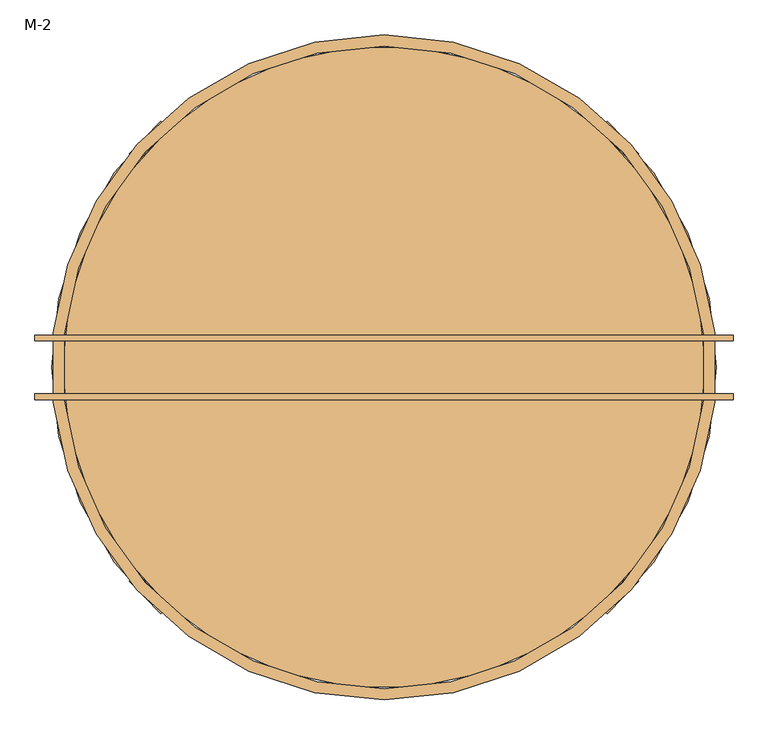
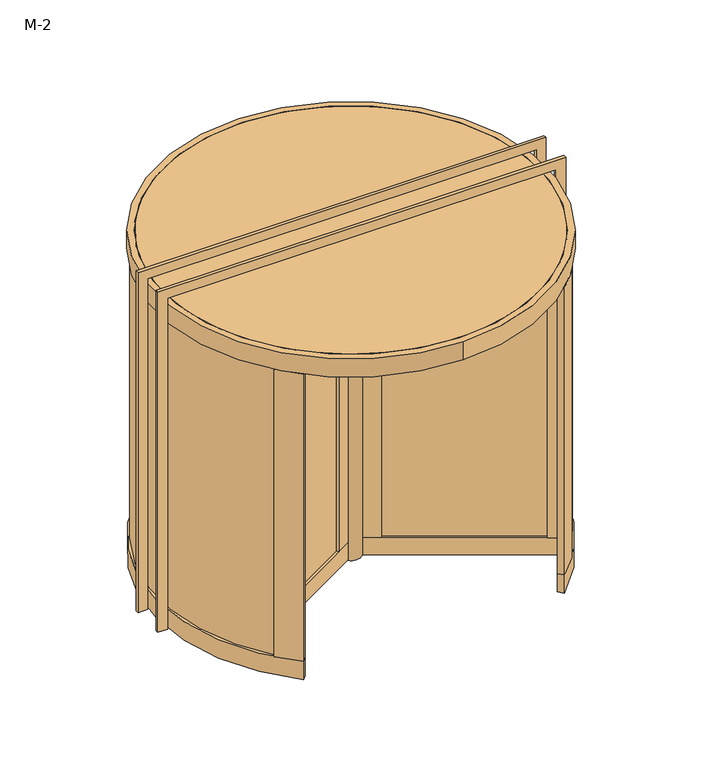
"""IFC4 building model written with IfcOpenShell, lengths in millimetres: door geometry, 旋转门 3 : M-2."""

from ifc_helpers import new_model, si_unit, point, frame, frame_2d, origin, origin_with_axes, origin_2d, place, context, project, spatial, polyline, circle_curve, trimmed, segment, composite_curve, outline, extrude, source, transform, mapped, element, save


def m_2_975caadc(model_context):
    return source(origin(), model_context, "Body", "SweptSolid", [
        extrude(outline(polyline([(2700.0, -1500.0), (2700.0, 1500.0), (0.0, 1500.0), (0.0, 1575.0), (2775.0, 1575.0), (2775.0, -1575.0), (0.0, -1575.0), (0.0, -1500.0), (2700.0, -1500.0)])), frame((0.0, -145.0, 0.0), z_axis=(0.0, 1.0, 0.0), x_axis=(0.0, 0.0, 1.0)), (0.0, 0.0, 1.0), 25.0),
        extrude(outline(polyline([(2700.0, -1500.0), (2700.0, 1500.0), (0.0, 1500.0), (0.0, 1575.0), (2775.0, 1575.0), (2775.0, -1575.0), (0.0, -1575.0), (0.0, -1500.0), (2700.0, -1500.0)])), frame((0.0, 120.0, 0.0), z_axis=(0.0, 1.0, 0.0), x_axis=(0.0, 0.0, 1.0)), (0.0, 0.0, 1.0), 25.0),
        extrude(outline(composite_curve([segment(trimmed(circle_curve(origin_2d(), 1500.0000021), [point((0.0, -1500.0000021))], [point((0.0, 1500.0000021))], False, "CARTESIAN"), True, "CONTINUOUS"), segment(trimmed(circle_curve(origin_2d(), 1500.0000021), [point((0.0, 1500.0000021))], [point((0.0, -1500.0000021))], False, "CARTESIAN"), True, "CONTINUOUS")], self_intersect=False), holes=[composite_curve([segment(trimmed(circle_curve(origin_2d(), 1449.2000021), [point((0.0, 1449.2000021))], [point((0.0, -1449.2000021))], True, "CARTESIAN"), True, "CONTINUOUS"), segment(trimmed(circle_curve(origin_2d(), 1449.2000021), [point((0.0, -1449.2000021))], [point((0.0, 1449.2000021))], True, "CARTESIAN"), True, "CONTINUOUS")], self_intersect=False)]), frame((0.0, 0.0, 2493.2), z_axis=(0.0, 0.0, 1.0), x_axis=(1.0, 0.0, 0.0)), (0.0, 0.0, 1.0), 150.0),
        extrude(outline(polyline([(174.0798334, -107.8673079), (180.4298334, -96.8687853), (1141.6390397, -651.8231794), (1135.2890397, -662.821702), (174.0798334, -107.8673079)])), frame((0.0, 0.0, 150.0), z_axis=(0.0, 0.0, 1.0), x_axis=(1.0, 0.0, 0.0)), (0.0, 0.0, 1.0), 2343.2),
        extrude(outline(polyline([(-6.3759122, 204.691212), (-6.3759122, 1314.6), (6.3240878, 1314.6), (6.3240878, 204.691212), (-6.3759122, 204.691212)])), frame((0.0, 0.0, 150.0), z_axis=(0.0, 0.0, 1.0), x_axis=(1.0, 0.0, 0.0)), (0.0, 0.0, 1.0), 2343.2),
        extrude(outline(polyline([(-174.0798334, -107.8673079), (-1135.2890397, -662.821702), (-1141.6390397, -651.8231793), (-180.4298334, -96.8687853), (-174.0798334, -107.8673079)])), frame((0.0, 0.0, 150.0), z_axis=(0.0, 0.0, 1.0), x_axis=(1.0, 0.0, 0.0)), (0.0, 0.0, 1.0), 2343.2),
        extrude(outline(polyline([(1125.9769958, -678.9506351), (1150.9769958, -635.6493649), (1254.9000443, -695.6493649), (1229.9000443, -738.9506351), (1125.9769958, -678.9506351)])), frame((0.0, 0.0, 150.0), z_axis=(0.0, 0.0, 1.0), x_axis=(1.0, 0.0, 0.0)), (0.0, 0.0, 1.0), 2343.2),
        extrude(outline(polyline([(58.7955281, -62.2855931), (83.7543721, -19.0556072), (189.9563281, -80.3713351), (164.9974841, -123.601321), (58.7955281, -62.2855931)])), frame((0.0, 0.0, 150.0), z_axis=(0.0, 0.0, 1.0), x_axis=(1.0, 0.0, 0.0)), (0.0, 0.0, 1.0), 2343.2),
        extrude(outline(polyline([(25.0, 1314.6), (-25.0, 1314.6), (-25.0, 1434.6), (25.0, 1434.6), (25.0, 1314.6)])), frame((0.0, 0.0, 150.0), z_axis=(0.0, 0.0, 1.0), x_axis=(1.0, 0.0, 0.0)), (0.0, 0.0, 1.0), 2343.2),
        extrude(outline(polyline([(24.5431418, 82.0612175), (-25.3745461, 82.0612175), (-25.3745461, 204.6926733), (24.5431418, 204.6926733), (24.5431418, 82.0612175)])), frame((0.0, 0.0, 150.0), z_axis=(0.0, 0.0, 1.0), x_axis=(1.0, 0.0, 0.0)), (0.0, 0.0, 1.0), 2343.2),
        extrude(outline(polyline([(-1125.9769958, -678.9506351), (-1229.9000443, -738.9506351), (-1254.9000443, -695.6493649), (-1150.9769958, -635.6493649), (-1125.9769958, -678.9506351)])), frame((0.0, 0.0, 150.0), z_axis=(0.0, 0.0, 1.0), x_axis=(1.0, 0.0, 0.0)), (0.0, 0.0, 1.0), 2343.2),
        extrude(outline(polyline([(-58.7955281, -62.2855931), (-164.9974841, -123.601321), (-189.9563281, -80.3713351), (-83.7543721, -19.0556072), (-58.7955281, -62.2855931)])), frame((0.0, 0.0, 150.0), z_axis=(0.0, 0.0, 1.0), x_axis=(1.0, 0.0, 0.0)), (0.0, 0.0, 1.0), 2343.2),
        extrude(outline(polyline([(58.56693, -62.6811463), (83.56693, -19.3798761), (1254.9000443, -695.6493649), (1229.9000443, -738.9506351), (58.56693, -62.6811463)])), frame((0.0, 0.0, 2493.2), z_axis=(0.0, 0.0, 1.0), x_axis=(1.0, 0.0, 0.0)), (0.0, 0.0, 1.0), 86.5),
        extrude(outline(polyline([(-25.0, 82.0610223), (-25.0, 1434.6), (25.0, 1434.6), (25.0, 82.0610223), (-25.0, 82.0610223)])), frame((0.0, 0.0, 2493.2), z_axis=(0.0, 0.0, 1.0), x_axis=(1.0, 0.0, 0.0)), (0.0, 0.0, 1.0), 86.5),
        extrude(outline(polyline([(-58.56693, -62.6811463), (-1229.9000443, -738.9506351), (-1254.9000443, -695.6493649), (-83.56693, -19.3798761), (-58.56693, -62.6811463)])), frame((0.0, 0.0, 2493.2), z_axis=(0.0, 0.0, 1.0), x_axis=(1.0, 0.0, 0.0)), (0.0, 0.0, 1.0), 86.5),
        extrude(outline(polyline([(58.56693, -62.6811463), (83.56693, -19.3798761), (1254.9000443, -695.6493649), (1229.9000443, -738.9506351), (58.56693, -62.6811463)])), frame((0.0, 0.0, 12.7), z_axis=(0.0, 0.0, 1.0), x_axis=(1.0, 0.0, 0.0)), (0.0, 0.0, 1.0), 137.3),
        extrude(outline(polyline([(-25.0, 82.0610223), (-25.0, 1434.6), (25.0, 1434.6), (25.0, 82.0610223), (-25.0, 82.0610223)])), frame((0.0, 0.0, 12.7), z_axis=(0.0, 0.0, 1.0), x_axis=(1.0, 0.0, 0.0)), (0.0, 0.0, 1.0), 137.3),
        extrude(outline(polyline([(-58.56693, -62.6811463), (-1229.9000443, -738.9506351), (-1254.9000443, -695.6493649), (-83.56693, -19.3798761), (-58.56693, -62.6811463)])), frame((0.0, 0.0, 12.7), z_axis=(0.0, 0.0, 1.0), x_axis=(1.0, 0.0, 0.0)), (0.0, 0.0, 1.0), 137.3),
        extrude(outline(composite_curve([segment(trimmed(circle_curve(origin_2d(), 76.3647379), [point((-76.3647379, 0.0))], [point((76.3647379, 0.0))], False, "CARTESIAN"), True, "CONTINUOUS"), segment(trimmed(circle_curve(origin_2d(), 76.3647379), [point((76.3647379, 0.0))], [point((-76.3647379, 0.0))], False, "CARTESIAN"), True, "CONTINUOUS")], self_intersect=False), holes=[composite_curve([segment(trimmed(circle_curve(origin_2d(), 65.1966682), [point((-65.1966682, 0.0))], [point((65.1966682, 0.0))], True, "CARTESIAN"), True, "CONTINUOUS"), segment(trimmed(circle_curve(origin_2d(), 65.1966682), [point((65.1966682, 0.0))], [point((-65.1966682, 0.0))], True, "CARTESIAN"), True, "CONTINUOUS")], self_intersect=False)]), origin_with_axes(), (0.0, 0.0, 1.0), 2592.4),
        extrude(outline(composite_curve([segment(polyline([(-973.8283415, -1073.2376257), (-1007.967438, -1110.8562661)]), True, "CONTINUOUS"), segment(trimmed(circle_curve(origin_2d(), 1500.0), [point((-1007.967438, -1110.8562661))], [point((-1149.0666647, -964.1814145))], False, "CARTESIAN"), True, "CONTINUOUS"), segment(polyline([(-1149.0666647, -964.1814145), (-1110.151607, -931.527804)]), True, "CONTINUOUS"), segment(trimmed(circle_curve(origin_2d(), 1449.2), [point((-1110.151607, -931.527804))], [point((-973.8283415, -1073.2376257))], True, "CARTESIAN"), True, "CONTINUOUS")], self_intersect=False)), frame((0.0, 0.0, 150.0), z_axis=(0.0, 0.0, 1.0), x_axis=(1.0, 0.0, 0.0)), (0.0, 0.0, 1.0), 2343.2),
        extrude(outline(composite_curve([segment(trimmed(circle_curve(frame_2d((0.0791205, -0.0760711)), 1449.2), [point((974.0554178, -1073.1794269))], [point((1110.5643577, -931.2061253))], True, "CARTESIAN"), True, "CONTINUOUS"), segment(polyline([(1110.5643577, -931.2061253), (1149.4070322, -963.7756348)]), True, "CONTINUOUS"), segment(trimmed(circle_curve(origin_2d(), 1500.0), [point((1149.4070322, -963.7756348))], [point((1008.1209241, -1110.7169767))], False, "CARTESIAN"), True, "CONTINUOUS"), segment(polyline([(1008.1209241, -1110.7169767), (974.0554178, -1073.1794269)]), True, "CONTINUOUS")], self_intersect=False)), frame((0.0, 0.0, 150.0), z_axis=(0.0, 0.0, 1.0), x_axis=(1.0, 0.0, 0.0)), (0.0, 0.0, 1.0), 2343.2),
        extrude(outline(composite_curve([segment(polyline([(974.0554203, 1073.1794297), (1008.1209241, 1110.7169767)]), True, "CONTINUOUS"), segment(trimmed(circle_curve(origin_2d(), 1500.0), [point((1008.1209241, 1110.7169767))], [point((1149.0666647, 964.1814145))], False, "CARTESIAN"), True, "CONTINUOUS"), segment(polyline([(1149.0666647, 964.1814145), (1110.2354951, 931.5981945)]), True, "CONTINUOUS"), segment(trimmed(circle_curve(frame_2d((0.0791073, 0.0760881)), 1449.2), [point((1110.2354951, 931.5981945))], [point((974.0554203, 1073.1794297))], True, "CARTESIAN"), True, "CONTINUOUS")], self_intersect=False)), frame((0.0, 0.0, 150.0), z_axis=(0.0, 0.0, 1.0), x_axis=(1.0, 0.0, 0.0)), (0.0, 0.0, 1.0), 2343.2),
        extrude(outline(composite_curve([segment(trimmed(circle_curve(origin_2d(), 1449.2), [point((-973.8283415, 1073.2376257))], [point((-1110.4804474, 931.1357667))], True, "CARTESIAN"), True, "CONTINUOUS"), segment(polyline([(-1110.4804474, 931.1357667), (-1149.4070322, 963.7756348)]), True, "CONTINUOUS"), segment(trimmed(circle_curve(origin_2d(), 1500.0), [point((-1149.4070322, 963.7756348))], [point((-1007.967438, 1110.8562661))], False, "CARTESIAN"), True, "CONTINUOUS"), segment(polyline([(-1007.967438, 1110.8562661), (-973.8283415, 1073.2376257)]), True, "CONTINUOUS")], self_intersect=False)), frame((0.0, 0.0, 150.0), z_axis=(0.0, 0.0, 1.0), x_axis=(1.0, 0.0, 0.0)), (0.0, 0.0, 1.0), 2343.2),
        extrude(outline(composite_curve([segment(trimmed(circle_curve(origin_2d(), 1449.3647675), [point((-1449.3647675, 0.0))], [point((1449.3647675, 0.0))], False, "CARTESIAN"), True, "CONTINUOUS"), segment(trimmed(circle_curve(origin_2d(), 1449.3647675), [point((1449.3647675, 0.0))], [point((-1449.3647675, 0.0))], False, "CARTESIAN"), True, "CONTINUOUS")], self_intersect=False)), frame((0.0, 0.0, 2592.4), z_axis=(0.0, 0.0, 1.0), x_axis=(1.0, 0.0, 0.0)), (0.0, 0.0, 1.0), 50.8),
        extrude(outline(composite_curve([segment(trimmed(circle_curve(origin_2d(), 1468.6), [point((1125.3461117, -943.6005982))], [point((1125.0128692, 943.9978836))], True, "CARTESIAN"), True, "CONTINUOUS"), segment(polyline([(1125.0128692, 943.9978836), (1134.2054025, 951.7113349)]), True, "CONTINUOUS"), segment(trimmed(circle_curve(origin_2d(), 1480.6), [point((1134.2054025, 951.7113349))], [point((1134.5413679, -951.3108033))], False, "CARTESIAN"), True, "CONTINUOUS"), segment(polyline([(1134.5413679, -951.3108033), (1125.3461117, -943.6005982)]), True, "CONTINUOUS")], self_intersect=False)), frame((0.0, 0.0, 150.0), z_axis=(0.0, 0.0, 1.0), x_axis=(1.0, 0.0, 0.0)), (0.0, 0.0, 1.0), 2343.2),
        extrude(outline(composite_curve([segment(trimmed(circle_curve(origin_2d(), 1480.6), [point((-1134.2054025, -951.7113349))], [point((-1134.5413679, 951.3108033))], False, "CARTESIAN"), True, "CONTINUOUS"), segment(polyline([(-1134.5413679, 951.3108033), (-1125.3461117, 943.6005982)]), True, "CONTINUOUS"), segment(trimmed(circle_curve(origin_2d(), 1468.6), [point((-1125.3461117, 943.6005982))], [point((-1125.0128692, -943.9978836))], True, "CARTESIAN"), True, "CONTINUOUS"), segment(polyline([(-1125.0128692, -943.9978836), (-1134.2054025, -951.7113349)]), True, "CONTINUOUS")], self_intersect=False)), frame((0.0, 0.0, 150.0), z_axis=(0.0, 0.0, 1.0), x_axis=(1.0, 0.0, 0.0)), (0.0, 0.0, 1.0), 2343.2),
        extrude(outline(composite_curve([segment(trimmed(circle_curve(origin_2d(), 1449.2), [point((973.9805059, -1073.099536))], [point((973.9805059, 1073.099536))], True, "CARTESIAN"), True, "CONTINUOUS"), segment(polyline([(973.9805059, 1073.099536), (1008.1222459, 1110.715777)]), True, "CONTINUOUS"), segment(trimmed(circle_curve(origin_2d(), 1500.0), [point((1008.1222459, 1110.715777))], [point((1008.1222459, -1110.715777))], False, "CARTESIAN"), True, "CONTINUOUS"), segment(polyline([(1008.1222459, -1110.715777), (973.9805059, -1073.099536)]), True, "CONTINUOUS")], self_intersect=False)), origin_with_axes(), (0.0, 0.0, 1.0), 150.0),
        extrude(outline(composite_curve([segment(trimmed(circle_curve(origin_2d(), 1500.0), [point((-1007.966116, -1110.8574657))], [point((-1007.966116, 1110.8574657))], False, "CARTESIAN"), True, "CONTINUOUS"), segment(polyline([(-1007.966116, 1110.8574657), (-973.8296635, 1073.2364262)]), True, "CONTINUOUS"), segment(trimmed(circle_curve(origin_2d(), 1449.2), [point((-973.8296635, 1073.2364262))], [point((-973.8296635, -1073.2364262))], True, "CARTESIAN"), True, "CONTINUOUS"), segment(polyline([(-973.8296635, -1073.2364262), (-1007.966116, -1110.8574657)]), True, "CONTINUOUS")], self_intersect=False)), origin_with_axes(), (0.0, 0.0, 1.0), 150.0),
    ])


if __name__ == "__main__":
    model = new_model("IFC4")
    model_context = context("Model", 3, world=origin())
    ifc_project = project(units=[si_unit("LENGTHUNIT", "METRE", prefix="MILLI")], contexts=[model_context])
    site = spatial("IfcSite", under=ifc_project)
    building = spatial("IfcBuilding", under=site)
    placement = place(None, origin())
    m_2_shape = m_2_975caadc(model_context)
    element("IfcDoor", 1, ObjectType="旋转门 3 : M-2", at=placement, inside=building, context=model_context, shape_type="MappedRepresentation", body=[
        mapped(m_2_shape, transform((0.0, 0.0, 0.0), x_axis=(1.0, 0.0, 0.0), y_axis=(0.0, 1.0, 0.0), z_axis=(0.0, 0.0, 1.0))),
    ])
    save(model, "model.ifc")
